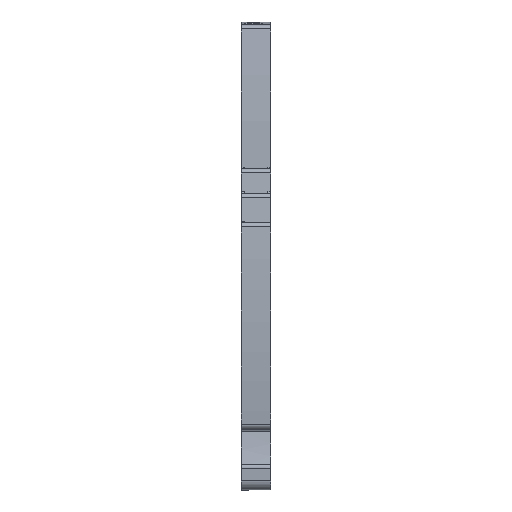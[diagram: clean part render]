
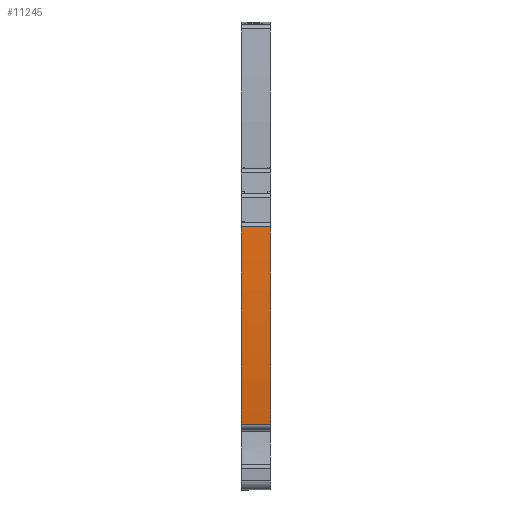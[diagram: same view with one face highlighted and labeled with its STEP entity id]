
A CAD part, front view. The second image highlights one B-rep face of the part: STEP entity #11245.
In plain terms, the highlighted cylindrical face has radius 202 mm (diameter 404 mm), a partial arc.
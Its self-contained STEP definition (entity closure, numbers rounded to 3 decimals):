
#2790=AXIS2_PLACEMENT_3D('Circle Axis2P3D',#2788,#2789,$) ;
#2797=AXIS2_PLACEMENT_3D('Circle Axis2P3D',#2795,#2796,$) ;
#2804=AXIS2_PLACEMENT_3D('Circle Axis2P3D',#2802,#2803,$) ;
#11207=AXIS2_PLACEMENT_3D('Cylinder Axis2P3D',#11204,#11205,#11206) ;
#11218=AXIS2_PLACEMENT_3D('Circle Axis2P3D',#11216,#11217,$) ;
#11225=AXIS2_PLACEMENT_3D('Circle Axis2P3D',#11223,#11224,$) ;
#11232=AXIS2_PLACEMENT_3D('Circle Axis2P3D',#11230,#11231,$) ;
#2785=CARTESIAN_POINT('Vertex',(0.,1.531,13.327)) ;
#2788=CARTESIAN_POINT('Axis2P3D Location',(0.,202.,38.15)) ;
#2792=CARTESIAN_POINT('Vertex',(0.,1.191,16.25)) ;
#2795=CARTESIAN_POINT('Axis2P3D Location',(0.,202.,38.15)) ;
#2799=CARTESIAN_POINT('Vertex',(0.,0.037,34.3)) ;
#2802=CARTESIAN_POINT('Axis2P3D Location',(0.,202.,38.15)) ;
#2806=CARTESIAN_POINT('Vertex',(0.,0.609,53.828)) ;
#11188=CARTESIAN_POINT('Vertex',(6.,1.531,13.327)) ;
#11191=CARTESIAN_POINT('Line Origine',(3.61,1.531,13.327)) ;
#11204=CARTESIAN_POINT('Axis2P3D Location',(2.55,202.,38.15)) ;
#11209=CARTESIAN_POINT('Line Origine',(2.55,0.609,53.828)) ;
#11213=CARTESIAN_POINT('Vertex',(6.,0.609,53.828)) ;
#11216=CARTESIAN_POINT('Axis2P3D Location',(6.,202.,38.15)) ;
#11220=CARTESIAN_POINT('Vertex',(6.,1.191,16.25)) ;
#11223=CARTESIAN_POINT('Axis2P3D Location',(6.,202.,38.15)) ;
#11227=CARTESIAN_POINT('Vertex',(6.,0.037,34.3)) ;
#11230=CARTESIAN_POINT('Axis2P3D Location',(6.,202.,38.15)) ;
#2789=DIRECTION('Axis2P3D Direction',(1.,0.,0.)) ;
#2796=DIRECTION('Axis2P3D Direction',(1.,0.,0.)) ;
#2803=DIRECTION('Axis2P3D Direction',(1.,0.,0.)) ;
#11192=DIRECTION('Vector Direction',(-1.,0.,0.)) ;
#11205=DIRECTION('Axis2P3D Direction',(1.,0.,0.)) ;
#11206=DIRECTION('Axis2P3D XDirection',(0.,-0.997,0.078)) ;
#11210=DIRECTION('Vector Direction',(1.,0.,0.)) ;
#11217=DIRECTION('Axis2P3D Direction',(1.,0.,0.)) ;
#11224=DIRECTION('Axis2P3D Direction',(1.,0.,0.)) ;
#11231=DIRECTION('Axis2P3D Direction',(1.,0.,0.)) ;
#11193=VECTOR('Line Direction',#11192,1.) ;
#11211=VECTOR('Line Direction',#11210,1.) ;
#11236=ORIENTED_EDGE('',*,*,#11215,.T.) ;
#11237=ORIENTED_EDGE('',*,*,#2808,.T.) ;
#11238=ORIENTED_EDGE('',*,*,#2801,.T.) ;
#11239=ORIENTED_EDGE('',*,*,#2794,.T.) ;
#11240=ORIENTED_EDGE('',*,*,#11195,.F.) ;
#11241=ORIENTED_EDGE('',*,*,#11222,.F.) ;
#11242=ORIENTED_EDGE('',*,*,#11229,.F.) ;
#11243=ORIENTED_EDGE('',*,*,#11234,.F.) ;
#11245=ADVANCED_FACE('KLEMME',(#11244),#11208,.T.) ;
#2791=CIRCLE('generated circle',#2790,202.) ;
#2798=CIRCLE('generated circle',#2797,202.) ;
#2805=CIRCLE('generated circle',#2804,202.) ;
#11219=CIRCLE('generated circle',#11218,202.) ;
#11226=CIRCLE('generated circle',#11225,202.) ;
#11233=CIRCLE('generated circle',#11232,202.) ;
#11208=CYLINDRICAL_SURFACE('generated cylinder',#11207,202.) ;
#2794=EDGE_CURVE('',#2793,#2786,#2791,.T.) ;
#2801=EDGE_CURVE('',#2800,#2793,#2798,.T.) ;
#2808=EDGE_CURVE('',#2807,#2800,#2805,.T.) ;
#11195=EDGE_CURVE('',#11189,#2786,#11194,.T.) ;
#11215=EDGE_CURVE('',#11214,#2807,#11212,.F.) ;
#11222=EDGE_CURVE('',#11221,#11189,#11219,.T.) ;
#11229=EDGE_CURVE('',#11228,#11221,#11226,.T.) ;
#11234=EDGE_CURVE('',#11214,#11228,#11233,.T.) ;
#11235=EDGE_LOOP('',(#11236,#11237,#11238,#11239,#11240,#11241,#11242,#11243)) ;
#11244=FACE_OUTER_BOUND('',#11235,.T.) ;
#11194=LINE('Line',#11191,#11193) ;
#11212=LINE('Line',#11209,#11211) ;
#2786=VERTEX_POINT('',#2785) ;
#2793=VERTEX_POINT('',#2792) ;
#2800=VERTEX_POINT('',#2799) ;
#2807=VERTEX_POINT('',#2806) ;
#11189=VERTEX_POINT('',#11188) ;
#11214=VERTEX_POINT('',#11213) ;
#11221=VERTEX_POINT('',#11220) ;
#11228=VERTEX_POINT('',#11227) ;
